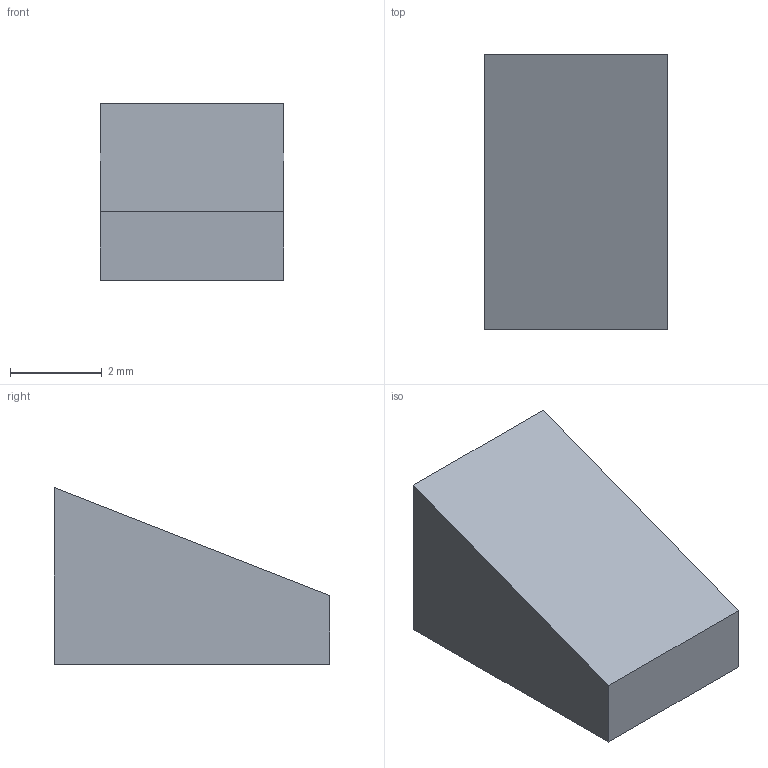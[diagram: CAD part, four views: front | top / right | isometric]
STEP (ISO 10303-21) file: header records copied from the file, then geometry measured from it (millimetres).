
FILE_DESCRIPTION (( 'STEP AP203' ), '1' );
FILE_NAME ('錨璃42.STEP', '2024-05-31T02:06:46', ( '' ), ( '' ), 'SwSTEP 2.0', 'SolidWorks 2024', '' );
FILE_SCHEMA (( 'CONFIG_CONTROL_DESIGN' ));
Length unit declared in the file: millimetre
Products named in the file (1): 零件42
Bounding box: 4 x 6 x 3.85 mm (x, y, z)
Volume: 64.2 mm3; surface area: 103.3 mm2
Topology: 1 solids, 1 shells, 6 faces, 12 edges, 8 vertices
Faces by surface type: plane 6
Entity records: 233 total; most frequent: CARTESIAN_POINT 27, DIRECTION 26, ORIENTED_EDGE 24, LINE 12, VECTOR 12, EDGE_CURVE 12, PERSON_AND_ORGANIZATION 8, VERTEX_POINT 8
